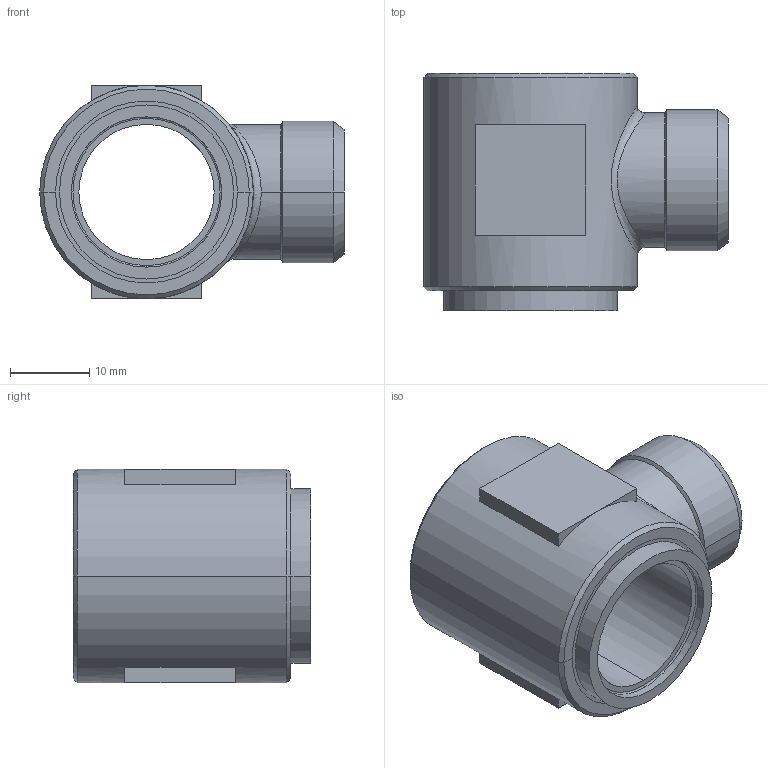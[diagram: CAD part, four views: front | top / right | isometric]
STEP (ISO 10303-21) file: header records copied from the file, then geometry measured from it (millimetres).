
FILE_DESCRIPTION((''),'2;1');
FILE_NAME('101307.stp','2007-10-30T15:41:12',(''),(''),'AutoCAD STEP 2000i','AutoCAD 2000i',', , ');
FILE_SCHEMA(('CONFIG_CONTROL_DESIGN'));
Length unit declared in the file: millimetre
Products named in the file (2): 101307.0; 1094#0
Assembly tree (1 placements, depth 2):
  101307.0
    1094#0
Bounding box: 38.5 x 30 x 27 mm (x, y, z)
Volume: 11197.9 mm3; surface area: 5957.4 mm2
Topology: 1 solids, 1 shells, 55 faces, 127 edges, 79 vertices
Faces by surface type: plane 20, cylinder 16, cone 14, bspline 5
Entity records: 2082 total; most frequent: CARTESIAN_POINT 697, DIRECTION 285, ORIENTED_EDGE 254, EDGE_CURVE 127, AXIS2_PLACEMENT_3D 115, VERTEX_POINT 79, EDGE_LOOP 64, CIRCLE 63
